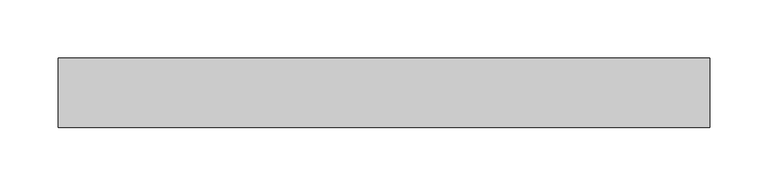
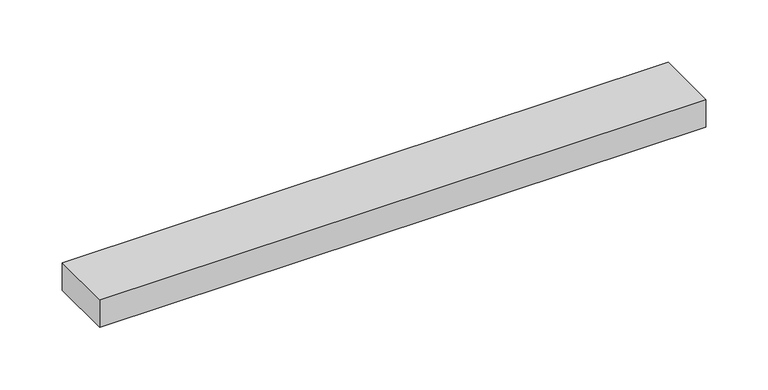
"""IFC4 building model written with IfcOpenShell, lengths in millimetres: proxy geometry, LINAK^DL5-DL6 T FOOT (560mm)."""

from ifc_helpers import new_model, si_unit, frame, origin, origin_with_axes, place, context, project, spatial, polyline, outline, extrude, source, transform, mapped, element, save


def generic_models_07090b79(model_context):
    return source(origin(), model_context, "Body", "SweptSolid", [
        extrude(outline(polyline([(23.5, 556.5), (23.5, 3.5), (7.0, 3.5), (7.0, 43.5), (0.0, 58.5), (0.0, 501.5), (7.0, 516.5), (7.0, 556.5), (23.5, 556.5)])), frame((0.0, 20.0, 0.0), z_axis=(0.0, 1.0, 0.0), x_axis=(0.0, 0.0, 1.0)), (0.0, 0.0, 1.0), 20.0),
        extrude(outline(polyline([(0.0, 60.0), (560.0, 60.0), (560.0, 0.0), (0.0, 0.0), (0.0, 60.0)])), origin_with_axes(), (0.0, 0.0, 1.0), 27.0),
    ])


if __name__ == "__main__":
    model = new_model("IFC4")
    model_context = context("Model", 3, world=origin())
    ifc_project = project(units=[si_unit("LENGTHUNIT", "METRE", prefix="MILLI")], contexts=[model_context])
    site = spatial("IfcSite", under=ifc_project)
    building = spatial("IfcBuilding", under=site)
    placement = place(None, origin())
    generic_models_shape = generic_models_07090b79(model_context)
    element("IfcBuildingElementProxy", 1, Name="LINAK^DL5-DL6 T FOOT (560mm)", ObjectType="LINAK^DL5-DL6 T FOOT (560mm)", at=placement, inside=building, context=model_context, shape_type="MappedRepresentation", body=[
        mapped(generic_models_shape, transform((0.0, 0.0, 0.0), x_axis=(1.0, 0.0, 0.0), y_axis=(0.0, 1.0, 0.0), z_axis=(0.0, 0.0, 1.0))),
    ])
    save(model, "model.ifc")
